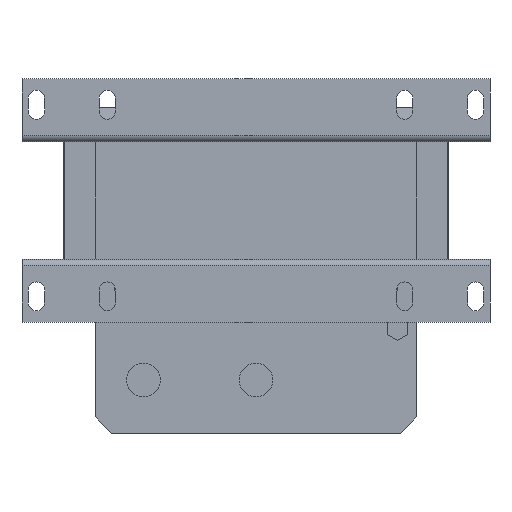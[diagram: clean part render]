
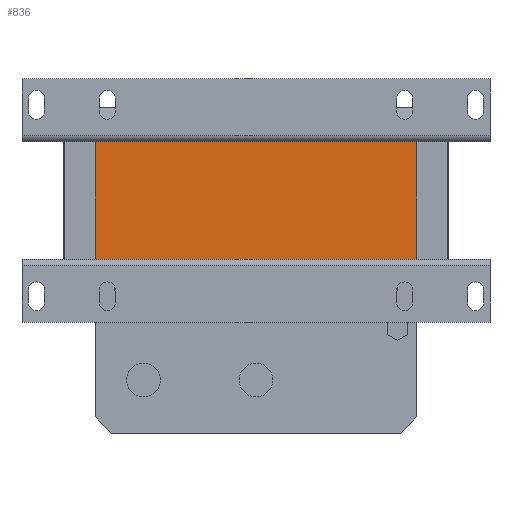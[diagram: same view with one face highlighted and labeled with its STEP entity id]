
A CAD part, front view. The second image highlights one B-rep face of the part: STEP entity #836.
In plain terms, the highlighted planar face has unit normal (0, -1, 0).
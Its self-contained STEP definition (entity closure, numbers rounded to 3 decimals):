
#578 = LINE ( 'NONE', #13155, #2578 ) ;
#836 = ADVANCED_FACE ( 'NONE', ( #24568 ), #14610, .F. ) ;
#1890 = CARTESIAN_POINT ( 'NONE',  ( 100., 8., -36.6 ) ) ;
#2363 = EDGE_CURVE ( 'NONE', #24775, #16541, #7216, .T. ) ;
#2578 = VECTOR ( 'NONE', #7528, 1000. ) ;
#2609 = EDGE_CURVE ( 'NONE', #5973, #24775, #10754, .T. ) ;
#3213 = VERTEX_POINT ( 'NONE', #26971 ) ;
#3767 = VECTOR ( 'NONE', #18031, 1000. ) ;
#4135 = AXIS2_PLACEMENT_3D ( 'NONE', #12130, #26761, #8021 ) ;
#5973 = VERTEX_POINT ( 'NONE', #9885 ) ;
#6243 = ORIENTED_EDGE ( 'NONE', *, *, #2609, .T. ) ;
#7216 = LINE ( 'NONE', #15993, #3767 ) ;
#7528 = DIRECTION ( 'NONE',  ( 1., 0., 0. ) ) ;
#8021 = DIRECTION ( 'NONE',  ( 0., 0., 1. ) ) ;
#8108 = EDGE_CURVE ( 'NONE', #3213, #16541, #13787, .T. ) ;
#8223 = ORIENTED_EDGE ( 'NONE', *, *, #8108, .F. ) ;
#9543 = DIRECTION ( 'NONE',  ( 0., 0., -1. ) ) ;
#9885 = CARTESIAN_POINT ( 'NONE',  ( -100., 8., 36.6 ) ) ;
#10754 = LINE ( 'NONE', #11015, #12512 ) ;
#11015 = CARTESIAN_POINT ( 'NONE',  ( -100., 8., 36.6 ) ) ;
#11979 = VECTOR ( 'NONE', #9543, 1000. ) ;
#12130 = CARTESIAN_POINT ( 'NONE',  ( -100., 8., 36.6 ) ) ;
#12426 = EDGE_CURVE ( 'NONE', #5973, #3213, #578, .T. ) ;
#12512 = VECTOR ( 'NONE', #19392, 1000. ) ;
#12658 = CARTESIAN_POINT ( 'NONE',  ( -100., 8., -36.6 ) ) ;
#13155 = CARTESIAN_POINT ( 'NONE',  ( -100., 8., 36.6 ) ) ;
#13787 = LINE ( 'NONE', #22127, #11979 ) ;
#14610 = PLANE ( 'NONE',  #4135 ) ;
#15993 = CARTESIAN_POINT ( 'NONE',  ( -100., 8., -36.6 ) ) ;
#16541 = VERTEX_POINT ( 'NONE', #1890 ) ;
#18031 = DIRECTION ( 'NONE',  ( 1., 0., 0. ) ) ;
#18275 = EDGE_LOOP ( 'NONE', ( #19663, #8223, #24452, #6243 ) ) ;
#19392 = DIRECTION ( 'NONE',  ( 0., 0., -1. ) ) ;
#19663 = ORIENTED_EDGE ( 'NONE', *, *, #2363, .T. ) ;
#22127 = CARTESIAN_POINT ( 'NONE',  ( 100., 8., 36.6 ) ) ;
#24452 = ORIENTED_EDGE ( 'NONE', *, *, #12426, .F. ) ;
#24568 = FACE_OUTER_BOUND ( 'NONE', #18275, .T. ) ;
#24775 = VERTEX_POINT ( 'NONE', #12658 ) ;
#26761 = DIRECTION ( 'NONE',  ( 0., 1., 0. ) ) ;
#26971 = CARTESIAN_POINT ( 'NONE',  ( 100., 8., 36.6 ) ) ;
